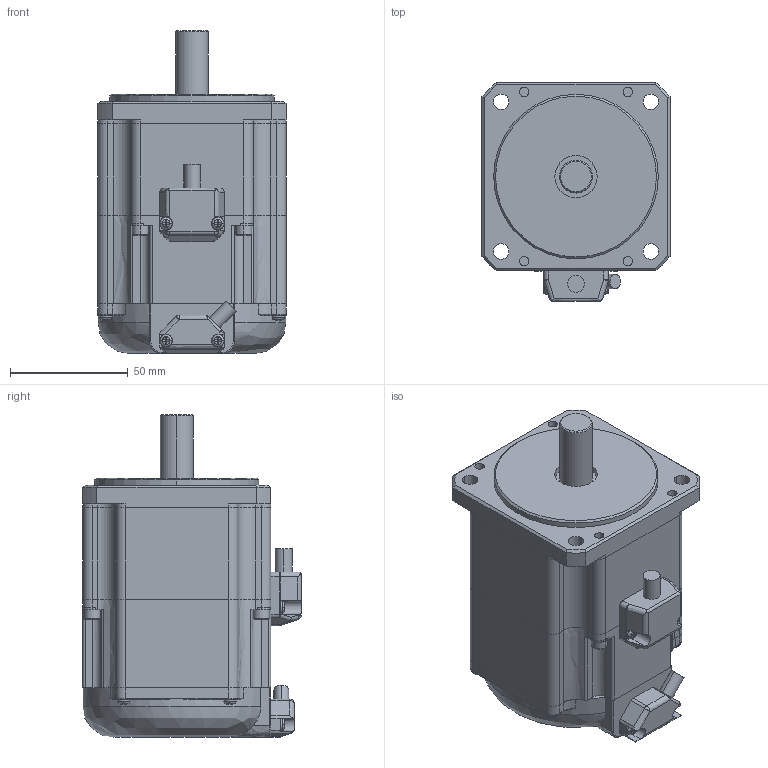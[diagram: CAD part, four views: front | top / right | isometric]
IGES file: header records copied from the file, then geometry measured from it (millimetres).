
Start section: Elysium IGES Interface
Global section: file name: 79H\\nas63\design\04MC研\saka\3DCAD\TBL-i2カタログまとめ\IGSデータ\TS4612_BK有.igs; native system: Creo Elements/Direct Modeling 17.0F  20-Aug-2012; preprocessor: Creo Element/Direct IGES_3D V2.2; author: Unknown; organization: Unknown; date: 20161222.163109; units: millimetre
Bounding box: 80 x 93 x 137.3 mm (x, y, z)
Volume: 610271.4 mm3; surface area: 48195 mm2
Topology: 1 solids, 1 shells, 658 faces, 1544 edges, 892 vertices
Faces by surface type: bspline 658
